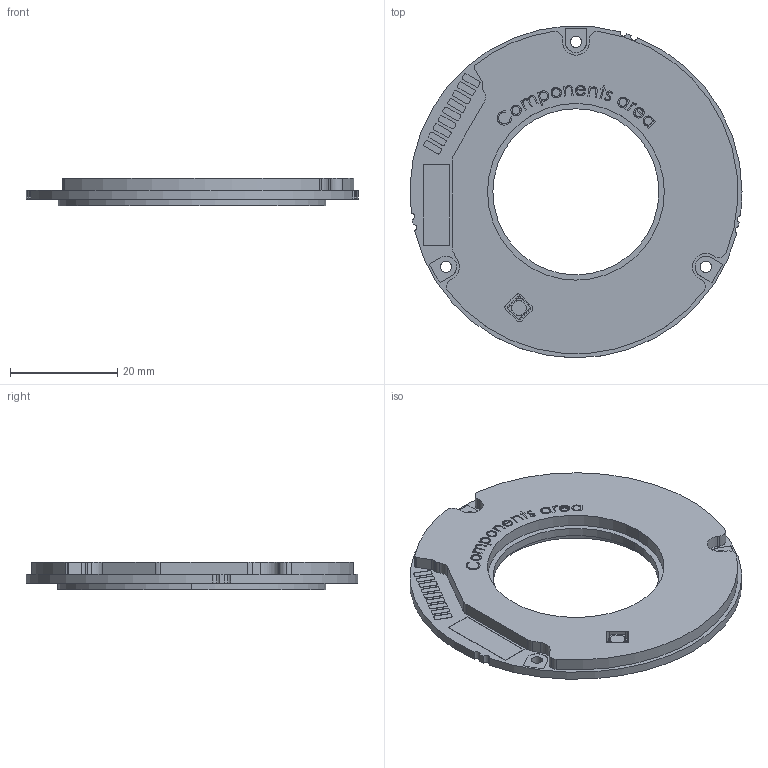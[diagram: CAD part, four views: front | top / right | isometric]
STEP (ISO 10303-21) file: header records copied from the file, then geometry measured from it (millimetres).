
FILE_DESCRIPTION (( 'STEP AP214' ), '1' );
FILE_NAME ('Orbis_BR30_BBM_all_top_soldering_pads.STEP', '2025-05-19T13:51:13', ( '' ), ( '' ), 'SwSTEP 2.0', 'SolidWorks 2024', '' );
FILE_SCHEMA (( 'AUTOMOTIVE_DESIGN' ));
Length unit declared in the file: millimetre
Products named in the file (1): Orbis_BR30_BBM_all_top_soldering_pads
Bounding box: 61.98 x 61.95 x 5.16 mm (x, y, z)
Volume: 8962 mm3; surface area: 6126.7 mm2
Topology: 1 solids, 1 shells, 1036 faces, 2947 edges, 1962 vertices
Faces by surface type: plane 596, bspline 249, cylinder 191
Entity records: 49570 total; most frequent: CARTESIAN_POINT 18856, ORIENTED_EDGE 5894, DIRECTION 4400, EDGE_CURVE 2947, VECTOR 2060, LINE 2060, VERTEX_POINT 1962, AXIS2_PLACEMENT_3D 1170
